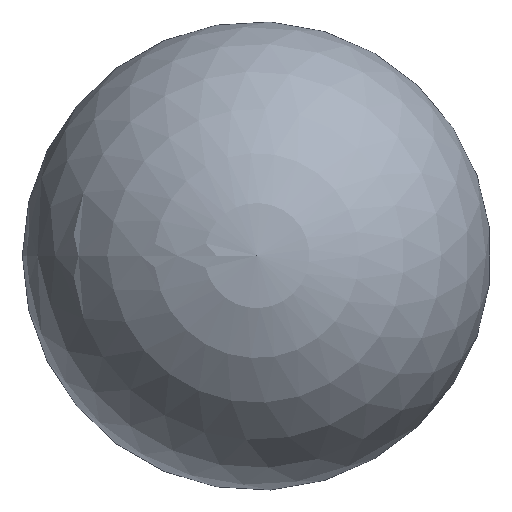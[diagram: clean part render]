
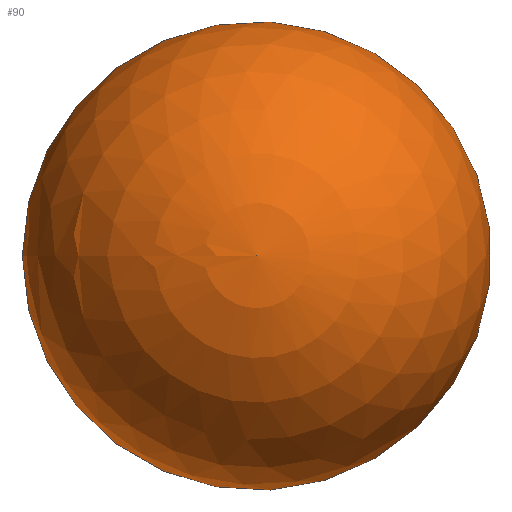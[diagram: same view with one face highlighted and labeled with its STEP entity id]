
A CAD part, top view. The second image highlights one B-rep face of the part: STEP entity #90.
In plain terms, the highlighted spherical face has radius 200 mm.
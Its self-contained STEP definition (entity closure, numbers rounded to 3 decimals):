
#32=FACE_OUTER_BOUND('',#38,.T.);
#38=EDGE_LOOP('',(#74,#75,#76));
#44=CIRCLE('',#116,40.);
#45=CIRCLE('',#118,200.);
#51=VERTEX_POINT('',#167);
#52=VERTEX_POINT('',#171);
#62=EDGE_CURVE('',#51,#51,#44,.T.);
#63=EDGE_CURVE('',#52,#51,#45,.T.);
#74=ORIENTED_EDGE('',*,*,#62,.T.);
#75=ORIENTED_EDGE('',*,*,#63,.F.);
#76=ORIENTED_EDGE('',*,*,#63,.T.);
#84=SPHERICAL_SURFACE('',#117,200.);
#90=ADVANCED_FACE('',(#32),#84,.T.);
#116=AXIS2_PLACEMENT_3D('',#169,#139,#140);
#117=AXIS2_PLACEMENT_3D('',#170,#141,#142);
#118=AXIS2_PLACEMENT_3D('',#172,#143,#144);
#139=DIRECTION('center_axis',(0.,0.,1.));
#140=DIRECTION('ref_axis',(1.,0.,0.));
#141=DIRECTION('center_axis',(0.,0.,1.));
#142=DIRECTION('ref_axis',(1.,0.,0.));
#143=DIRECTION('center_axis',(0.,-1.,0.));
#144=DIRECTION('ref_axis',(-1.,0.,0.));
#167=CARTESIAN_POINT('',(-40.,0.,0.));
#169=CARTESIAN_POINT('Origin',(0.,0.,0.));
#170=CARTESIAN_POINT('Origin',(0.,0.,195.959));
#171=CARTESIAN_POINT('',(0.,0.,395.959));
#172=CARTESIAN_POINT('Origin',(0.,0.,195.959));
